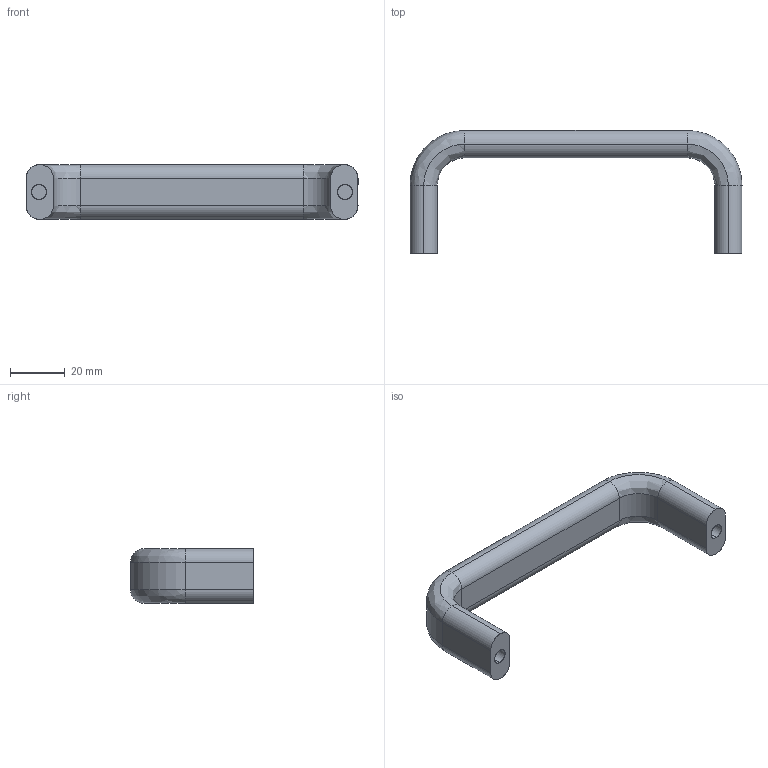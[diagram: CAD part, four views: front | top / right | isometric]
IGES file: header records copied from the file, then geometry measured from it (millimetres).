
Start section: SolidWorks IGES file using analytic representation for surfaces
Bounding box: 121.5 x 45 x 20 mm (x, y, z)
Surface area: 9880.5 mm2 (no closed solid volume)
Topology: 0 solids, 0 shells, 38 faces, 332 edges, 332 vertices
Faces by surface type: revolution 20, bspline 18
